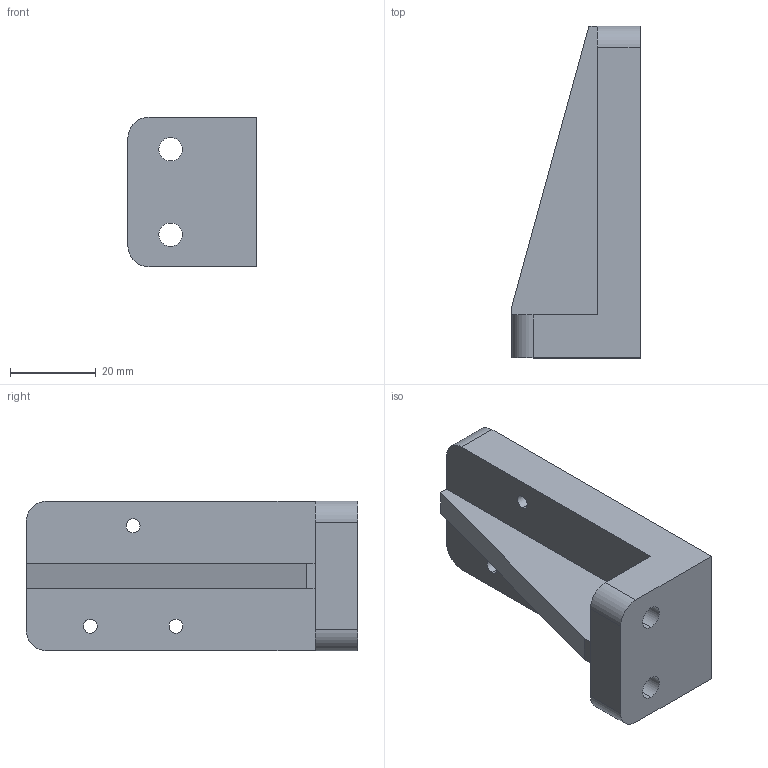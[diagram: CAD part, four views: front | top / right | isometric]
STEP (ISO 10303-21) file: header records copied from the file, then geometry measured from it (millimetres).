
FILE_DESCRIPTION (( 'STEP AP214' ), '1' );
FILE_NAME ('GZ30.02_V1手控阀支架.STEP', '2021-06-03T03:03:39', ( '微软中国' ), ( 'Microsoft' ), 'SwSTEP 2.0', 'SolidWorks 2017', '' );
FILE_SCHEMA (( 'AUTOMOTIVE_DESIGN' ));
Length unit declared in the file: millimetre
Products named in the file (1): GZ30.02_V1忒諷概盓殤
Bounding box: 30 x 77.5 x 35 mm (x, y, z)
Volume: 37750.6 mm3; surface area: 12330.4 mm2
Topology: 2 solids, 2 shells, 29 faces, 75 edges, 50 vertices
Faces by surface type: plane 15, cylinder 14
Entity records: 1026 total; most frequent: DIRECTION 163, CARTESIAN_POINT 155, ORIENTED_EDGE 150, EDGE_CURVE 75, AXIS2_PLACEMENT_3D 58, VERTEX_POINT 50, VECTOR 47, LINE 47
